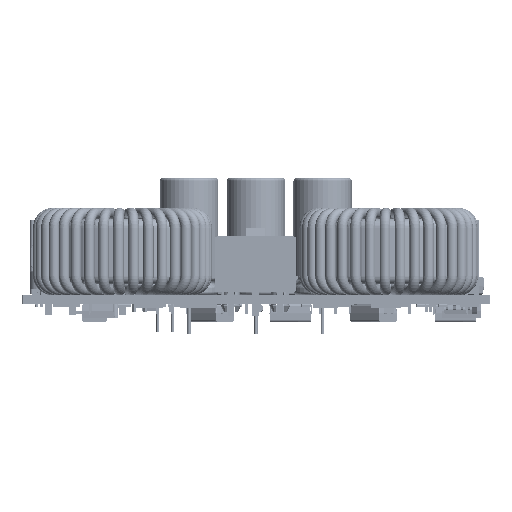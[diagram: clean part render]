
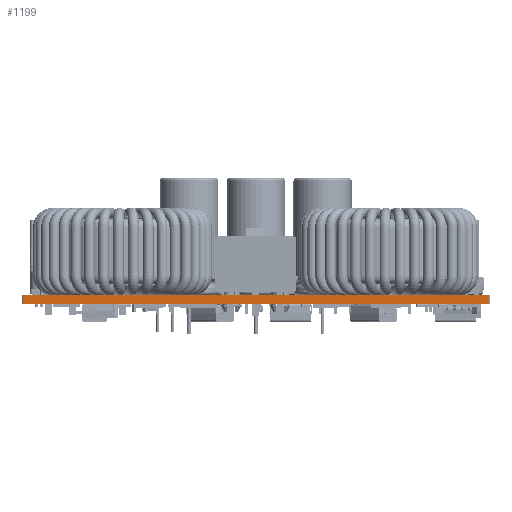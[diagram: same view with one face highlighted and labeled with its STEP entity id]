
A CAD part, left-side view. The second image highlights one B-rep face of the part: STEP entity #1199.
In plain terms, the highlighted planar face has unit normal (-1, 0, 0).
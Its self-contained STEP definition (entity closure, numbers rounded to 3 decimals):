
#632 = EDGE_CURVE('',#633,#635,#637,.T.);
#633 = VERTEX_POINT('',#634);
#634 = CARTESIAN_POINT('',(25.3,25.4,0.));
#635 = VERTEX_POINT('',#636);
#636 = CARTESIAN_POINT('',(25.3,25.4,1.591));
#637 = SURFACE_CURVE('',#638,(#642,#654),.PCURVE_S1.);
#638 = LINE('',#639,#640);
#639 = CARTESIAN_POINT('',(25.3,25.4,0.));
#640 = VECTOR('',#641,1.);
#641 = DIRECTION('',(0.,0.,1.));
#642 = PCURVE('',#643,#648);
#643 = PLANE('',#644);
#644 = AXIS2_PLACEMENT_3D('',#645,#646,#647);
#645 = CARTESIAN_POINT('',(25.3,25.4,0.));
#646 = DIRECTION('',(0.707,0.707,0.));
#647 = DIRECTION('',(0.707,-0.707,0.));
#648 = DEFINITIONAL_REPRESENTATION('',(#649),#653);
#649 = LINE('',#650,#651);
#650 = CARTESIAN_POINT('',(0.,0.));
#651 = VECTOR('',#652,1.);
#652 = DIRECTION('',(0.,-1.));
#653 = ( GEOMETRIC_REPRESENTATION_CONTEXT(2) 
PARAMETRIC_REPRESENTATION_CONTEXT() REPRESENTATION_CONTEXT('2D SPACE',''
  ) );
#654 = PCURVE('',#655,#660);
#655 = PLANE('',#656);
#656 = AXIS2_PLACEMENT_3D('',#657,#658,#659);
#657 = CARTESIAN_POINT('',(25.3,105.41,0.));
#658 = DIRECTION('',(1.,0.,0.));
#659 = DIRECTION('',(0.,-1.,0.));
#660 = DEFINITIONAL_REPRESENTATION('',(#661),#665);
#661 = LINE('',#662,#663);
#662 = CARTESIAN_POINT('',(80.01,0.));
#663 = VECTOR('',#664,1.);
#664 = DIRECTION('',(0.,-1.));
#665 = ( GEOMETRIC_REPRESENTATION_CONTEXT(2) 
PARAMETRIC_REPRESENTATION_CONTEXT() REPRESENTATION_CONTEXT('2D SPACE',''
  ) );
#683 = PLANE('',#684);
#684 = AXIS2_PLACEMENT_3D('',#685,#686,#687);
#685 = CARTESIAN_POINT('',(25.3,25.4,1.591));
#686 = DIRECTION('',(0.,0.,-1.));
#687 = DIRECTION('',(-1.,0.,0.));
#737 = PLANE('',#738);
#738 = AXIS2_PLACEMENT_3D('',#739,#740,#741);
#739 = CARTESIAN_POINT('',(25.3,25.4,0.));
#740 = DIRECTION('',(0.,0.,-1.));
#741 = DIRECTION('',(-1.,0.,0.));
#1096 = PLANE('',#1097);
#1097 = AXIS2_PLACEMENT_3D('',#1098,#1099,#1100);
#1098 = CARTESIAN_POINT('',(25.4,105.51,0.));
#1099 = DIRECTION('',(0.707,-0.707,0.));
#1100 = DIRECTION('',(-0.707,-0.707,0.));
#1134 = VERTEX_POINT('',#1135);
#1135 = CARTESIAN_POINT('',(25.3,105.41,1.591));
#1156 = EDGE_CURVE('',#1157,#1134,#1159,.T.);
#1157 = VERTEX_POINT('',#1158);
#1158 = CARTESIAN_POINT('',(25.3,105.41,0.));
#1159 = SURFACE_CURVE('',#1160,(#1164,#1171),.PCURVE_S1.);
#1160 = LINE('',#1161,#1162);
#1161 = CARTESIAN_POINT('',(25.3,105.41,0.));
#1162 = VECTOR('',#1163,1.);
#1163 = DIRECTION('',(0.,0.,1.));
#1164 = PCURVE('',#1096,#1165);
#1165 = DEFINITIONAL_REPRESENTATION('',(#1166),#1170);
#1166 = LINE('',#1167,#1168);
#1167 = CARTESIAN_POINT('',(0.141,0.));
#1168 = VECTOR('',#1169,1.);
#1169 = DIRECTION('',(0.,-1.));
#1170 = ( GEOMETRIC_REPRESENTATION_CONTEXT(2) 
PARAMETRIC_REPRESENTATION_CONTEXT() REPRESENTATION_CONTEXT('2D SPACE',''
  ) );
#1171 = PCURVE('',#655,#1172);
#1172 = DEFINITIONAL_REPRESENTATION('',(#1173),#1177);
#1173 = LINE('',#1174,#1175);
#1174 = CARTESIAN_POINT('',(0.,0.));
#1175 = VECTOR('',#1176,1.);
#1176 = DIRECTION('',(0.,-1.));
#1177 = ( GEOMETRIC_REPRESENTATION_CONTEXT(2) 
PARAMETRIC_REPRESENTATION_CONTEXT() REPRESENTATION_CONTEXT('2D SPACE',''
  ) );
#1199 = ADVANCED_FACE('',(#1200),#655,.F.);
#1200 = FACE_BOUND('',#1201,.F.);
#1201 = EDGE_LOOP('',(#1202,#1203,#1224,#1225));
#1202 = ORIENTED_EDGE('',*,*,#1156,.T.);
#1203 = ORIENTED_EDGE('',*,*,#1204,.T.);
#1204 = EDGE_CURVE('',#1134,#635,#1205,.T.);
#1205 = SURFACE_CURVE('',#1206,(#1210,#1217),.PCURVE_S1.);
#1206 = LINE('',#1207,#1208);
#1207 = CARTESIAN_POINT('',(25.3,105.41,1.591));
#1208 = VECTOR('',#1209,1.);
#1209 = DIRECTION('',(0.,-1.,0.));
#1210 = PCURVE('',#655,#1211);
#1211 = DEFINITIONAL_REPRESENTATION('',(#1212),#1216);
#1212 = LINE('',#1213,#1214);
#1213 = CARTESIAN_POINT('',(0.,-1.591));
#1214 = VECTOR('',#1215,1.);
#1215 = DIRECTION('',(1.,0.));
#1216 = ( GEOMETRIC_REPRESENTATION_CONTEXT(2) 
PARAMETRIC_REPRESENTATION_CONTEXT() REPRESENTATION_CONTEXT('2D SPACE',''
  ) );
#1217 = PCURVE('',#683,#1218);
#1218 = DEFINITIONAL_REPRESENTATION('',(#1219),#1223);
#1219 = LINE('',#1220,#1221);
#1220 = CARTESIAN_POINT('',(0.,80.01));
#1221 = VECTOR('',#1222,1.);
#1222 = DIRECTION('',(0.,-1.));
#1223 = ( GEOMETRIC_REPRESENTATION_CONTEXT(2) 
PARAMETRIC_REPRESENTATION_CONTEXT() REPRESENTATION_CONTEXT('2D SPACE',''
  ) );
#1224 = ORIENTED_EDGE('',*,*,#632,.F.);
#1225 = ORIENTED_EDGE('',*,*,#1226,.F.);
#1226 = EDGE_CURVE('',#1157,#633,#1227,.T.);
#1227 = SURFACE_CURVE('',#1228,(#1232,#1239),.PCURVE_S1.);
#1228 = LINE('',#1229,#1230);
#1229 = CARTESIAN_POINT('',(25.3,105.41,0.));
#1230 = VECTOR('',#1231,1.);
#1231 = DIRECTION('',(0.,-1.,0.));
#1232 = PCURVE('',#655,#1233);
#1233 = DEFINITIONAL_REPRESENTATION('',(#1234),#1238);
#1234 = LINE('',#1235,#1236);
#1235 = CARTESIAN_POINT('',(0.,0.));
#1236 = VECTOR('',#1237,1.);
#1237 = DIRECTION('',(1.,0.));
#1238 = ( GEOMETRIC_REPRESENTATION_CONTEXT(2) 
PARAMETRIC_REPRESENTATION_CONTEXT() REPRESENTATION_CONTEXT('2D SPACE',''
  ) );
#1239 = PCURVE('',#737,#1240);
#1240 = DEFINITIONAL_REPRESENTATION('',(#1241),#1245);
#1241 = LINE('',#1242,#1243);
#1242 = CARTESIAN_POINT('',(0.,80.01));
#1243 = VECTOR('',#1244,1.);
#1244 = DIRECTION('',(0.,-1.));
#1245 = ( GEOMETRIC_REPRESENTATION_CONTEXT(2) 
PARAMETRIC_REPRESENTATION_CONTEXT() REPRESENTATION_CONTEXT('2D SPACE',''
  ) );
